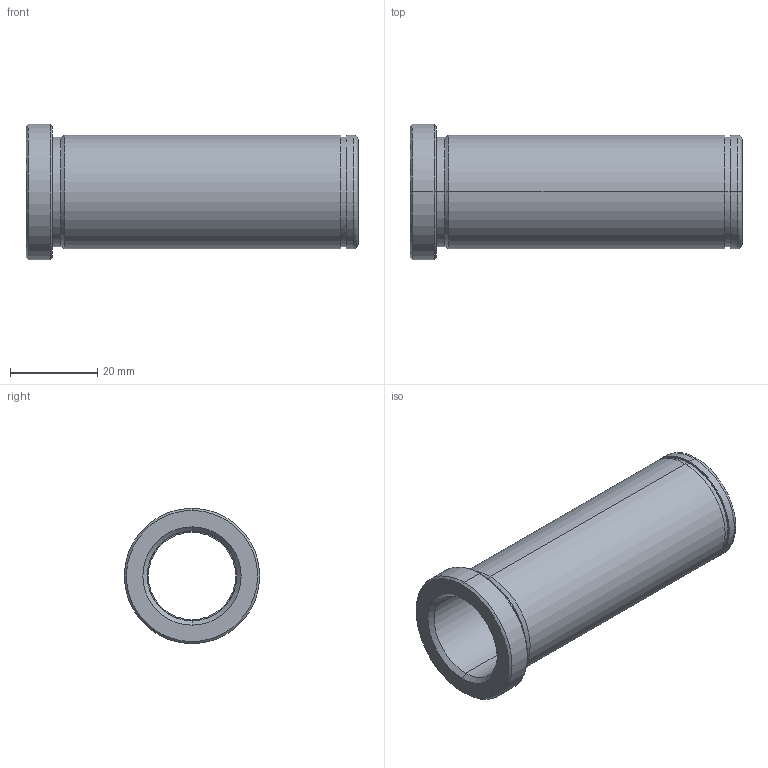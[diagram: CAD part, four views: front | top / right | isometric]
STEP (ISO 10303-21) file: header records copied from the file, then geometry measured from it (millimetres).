
FILE_DESCRIPTION(('CATIA V5 STEP Exchange'),'2;1');
FILE_NAME('C:\Users\Utente\Desktop\IO LAVORO\3D X SITO CF\X SITO\PLASTICA\553\553-20X76.stp','2021-05-23T18:03:46+00:00',('none'),('none'),'CATIA Version 5 Release 20 GA (IN-10)','CATIA V5 STEP AP203','none');
FILE_SCHEMA(('CONFIG_CONTROL_DESIGN'));
Length unit declared in the file: millimetre
Products named in the file (1): 553-20X76
Bounding box: 76 x 31 x 31 mm (x, y, z)
Volume: 17243.8 mm3; surface area: 11940 mm2
Topology: 1 solids, 1 shells, 32 faces, 102 edges, 76 vertices
Faces by surface type: cylinder 14, cone 8, plane 6, torus 4
Entity records: 1334 total; most frequent: CARTESIAN_POINT 389, ORIENTED_EDGE 204, DIRECTION 152, EDGE_CURVE 102, AXIS2_PLACEMENT_3D 99, VERTEX_POINT 76, CIRCLE 66, EDGE_LOOP 38
